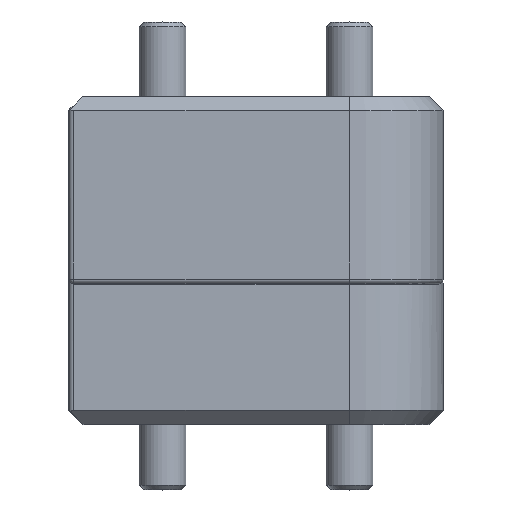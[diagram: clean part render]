
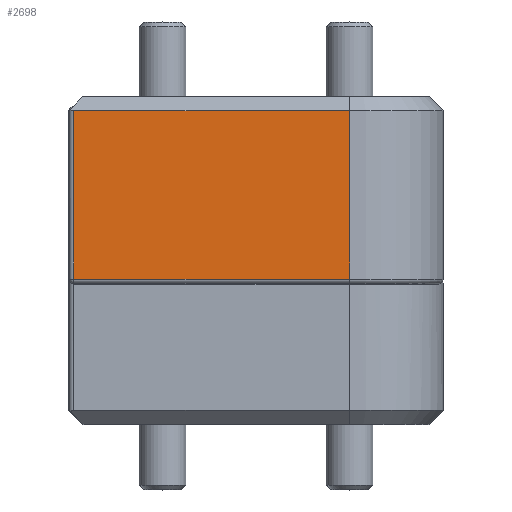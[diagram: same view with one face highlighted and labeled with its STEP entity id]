
A CAD part, top view. The second image highlights one B-rep face of the part: STEP entity #2698.
In plain terms, the highlighted planar face has unit normal (0, 0, 1) as drawn and (0, 1, 0) by its records, which use the part's own axes.
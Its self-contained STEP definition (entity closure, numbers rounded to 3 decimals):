
#932 = DIRECTION ( 'NONE',  ( 1., 0., 0. ) ) ;
#946 = FACE_OUTER_BOUND ( 'NONE', #9457, .T. ) ;
#1597 = DIRECTION ( 'NONE',  ( 0., 1., 0. ) ) ;
#1768 = EDGE_CURVE ( 'NONE', #5420, #7561, #3997, .T. ) ;
#1975 = CARTESIAN_POINT ( 'NONE',  ( 30., 20., -0.5 ) ) ;
#2698 = ADVANCED_FACE ( 'NONE', ( #946 ), #11734, .T. ) ;
#2905 = EDGE_CURVE ( 'NONE', #4823, #10769, #3545, .T. ) ;
#3545 = LINE ( 'NONE', #9467, #5035 ) ;
#3959 = CARTESIAN_POINT ( 'NONE',  ( 30., 20., -18.5 ) ) ;
#3997 = LINE ( 'NONE', #6582, #7209 ) ;
#4345 = CARTESIAN_POINT ( 'NONE',  ( 0.5, 20., -20. ) ) ;
#4427 = EDGE_CURVE ( 'NONE', #7561, #4823, #6297, .T. ) ;
#4615 = AXIS2_PLACEMENT_3D ( 'NONE', #10941, #1597, #9033 ) ;
#4823 = VERTEX_POINT ( 'NONE', #3959 ) ;
#4953 = CARTESIAN_POINT ( 'NONE',  ( 0.5, 20., -18.5 ) ) ;
#5035 = VECTOR ( 'NONE', #10403, 1000. ) ;
#5420 = VERTEX_POINT ( 'NONE', #10182 ) ;
#5440 = ORIENTED_EDGE ( 'NONE', *, *, #4427, .T. ) ;
#6297 = LINE ( 'NONE', #7203, #11826 ) ;
#6582 = CARTESIAN_POINT ( 'NONE',  ( 0., 20., -0.5 ) ) ;
#7203 = CARTESIAN_POINT ( 'NONE',  ( 30., 20., -20. ) ) ;
#7209 = VECTOR ( 'NONE', #932, 1000. ) ;
#7561 = VERTEX_POINT ( 'NONE', #1975 ) ;
#8054 = DIRECTION ( 'NONE',  ( 0., 0., -1. ) ) ;
#8757 = VECTOR ( 'NONE', #11784, 1000. ) ;
#8987 = ORIENTED_EDGE ( 'NONE', *, *, #2905, .T. ) ;
#9033 = DIRECTION ( 'NONE',  ( 0., 0., 1. ) ) ;
#9457 = EDGE_LOOP ( 'NONE', ( #10023, #11691, #5440, #8987 ) ) ;
#9467 = CARTESIAN_POINT ( 'NONE',  ( 0., 20., -18.5 ) ) ;
#9786 = LINE ( 'NONE', #4345, #8757 ) ;
#10023 = ORIENTED_EDGE ( 'NONE', *, *, #11420, .T. ) ;
#10182 = CARTESIAN_POINT ( 'NONE',  ( 0.5, 20., -0.5 ) ) ;
#10403 = DIRECTION ( 'NONE',  ( -1., 0., 0. ) ) ;
#10769 = VERTEX_POINT ( 'NONE', #4953 ) ;
#10941 = CARTESIAN_POINT ( 'NONE',  ( 0., 20., -20. ) ) ;
#11420 = EDGE_CURVE ( 'NONE', #10769, #5420, #9786, .T. ) ;
#11691 = ORIENTED_EDGE ( 'NONE', *, *, #1768, .T. ) ;
#11734 = PLANE ( 'NONE',  #4615 ) ;
#11784 = DIRECTION ( 'NONE',  ( 0., 0., 1. ) ) ;
#11826 = VECTOR ( 'NONE', #8054, 1000. ) ;
